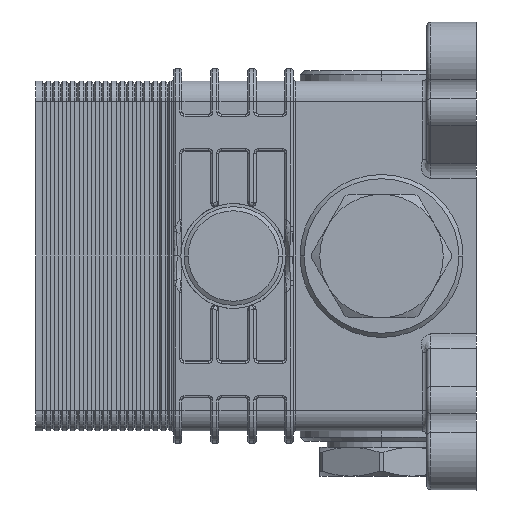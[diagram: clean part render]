
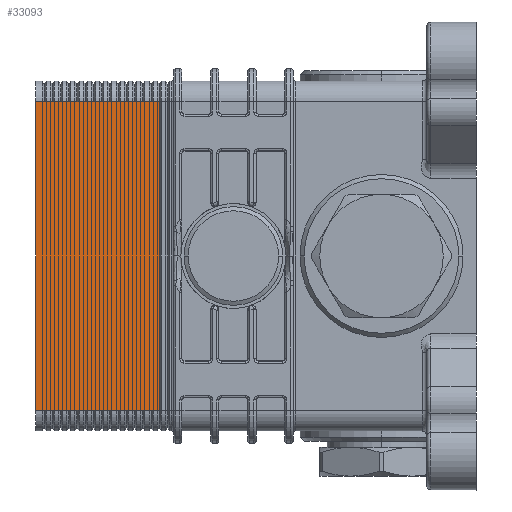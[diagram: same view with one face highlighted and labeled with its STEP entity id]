
A CAD part, left-side view. The second image highlights one B-rep face of the part: STEP entity #33093.
In plain terms, the highlighted planar face has unit normal (-1, 0, 0).
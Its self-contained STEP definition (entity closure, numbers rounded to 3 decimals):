
#9079=DIRECTION('',(0.,-1.,0.));
#9080=VECTOR('',#9079,30.);
#9081=CARTESIAN_POINT('',(-42.7,105.,37.5));
#9082=LINE('',#9081,#9080);
#9083=DIRECTION('',(0.,0.,-1.));
#9084=VECTOR('',#9083,75.);
#9085=CARTESIAN_POINT('',(-42.7,75.,37.5));
#9086=LINE('',#9085,#9084);
#9087=DIRECTION('',(0.,1.,0.));
#9088=VECTOR('',#9087,30.);
#9089=CARTESIAN_POINT('',(-42.7,75.,-37.5));
#9090=LINE('',#9089,#9088);
#9091=DIRECTION('',(0.,0.,1.));
#9092=VECTOR('',#9091,75.);
#9093=CARTESIAN_POINT('',(-42.7,105.,-37.5));
#9094=LINE('',#9093,#9092);
#17298=CARTESIAN_POINT('',(-42.7,75.,37.5));
#17299=VERTEX_POINT('',#17298);
#17300=CARTESIAN_POINT('',(-42.7,105.,37.5));
#17301=VERTEX_POINT('',#17300);
#17302=CARTESIAN_POINT('',(-42.7,75.,-37.5));
#17303=VERTEX_POINT('',#17302);
#17304=CARTESIAN_POINT('',(-42.7,105.,-37.5));
#17305=VERTEX_POINT('',#17304);
#33081=CARTESIAN_POINT('',(-42.7,90.,0.));
#33082=DIRECTION('',(-1.,0.,0.));
#33083=DIRECTION('',(0.,0.,-1.));
#33084=AXIS2_PLACEMENT_3D('',#33081,#33082,#33083);
#33085=PLANE('',#33084);
#33086=ORIENTED_EDGE('',*,*,#33035,.T.);
#33088=ORIENTED_EDGE('',*,*,#33087,.T.);
#33089=ORIENTED_EDGE('',*,*,#31532,.T.);
#33090=ORIENTED_EDGE('',*,*,#33064,.T.);
#33091=EDGE_LOOP('',(#33086,#33088,#33089,#33090));
#33092=FACE_OUTER_BOUND('',#33091,.F.);
#33093=ADVANCED_FACE('',(#33092),#33085,.T.);
#31532=EDGE_CURVE('',#17303,#17305,#9090,.T.);
#33035=EDGE_CURVE('',#17301,#17299,#9082,.T.);
#33064=EDGE_CURVE('',#17305,#17301,#9094,.T.);
#33087=EDGE_CURVE('',#17299,#17303,#9086,.T.);
